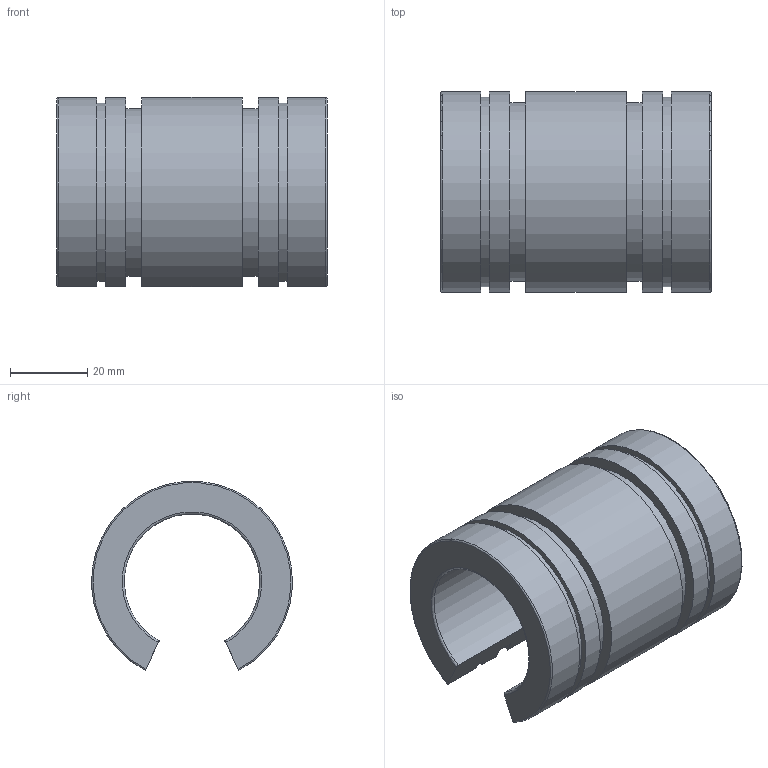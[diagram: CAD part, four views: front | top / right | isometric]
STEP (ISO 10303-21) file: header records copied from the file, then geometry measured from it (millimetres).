
FILE_DESCRIPTION(('STEP AP203'),'1');
FILE_NAME('//192.168.1.1/share/s-4 技術開発/s-4-4_CAD/s-4-4-3_見直し済み/PBC LINEAR修正済み/FJN/FJN_TOP/FJN35.step','2022-03-24T07:43:02',(' '),(' '),'Spatial InterOp 3D',' ',' ');
FILE_SCHEMA(('CONFIG_CONTROL_DESIGN'));
Length unit declared in the file: millimetre
Products named in the file (1): 1
Bounding box: 70 x 51.91 x 48.92 mm (x, y, z)
Volume: 64526.6 mm3; surface area: 21279.8 mm2
Topology: 1 solids, 1 shells, 26 faces, 72 edges, 48 vertices
Faces by surface type: plane 12, cylinder 10, torus 4
Entity records: 908 total; most frequent: CARTESIAN_POINT 187, ORIENTED_EDGE 144, DIRECTION 142, EDGE_CURVE 72, AXIS2_PLACEMENT_3D 51, VERTEX_POINT 48, LINE 40, VECTOR 40
